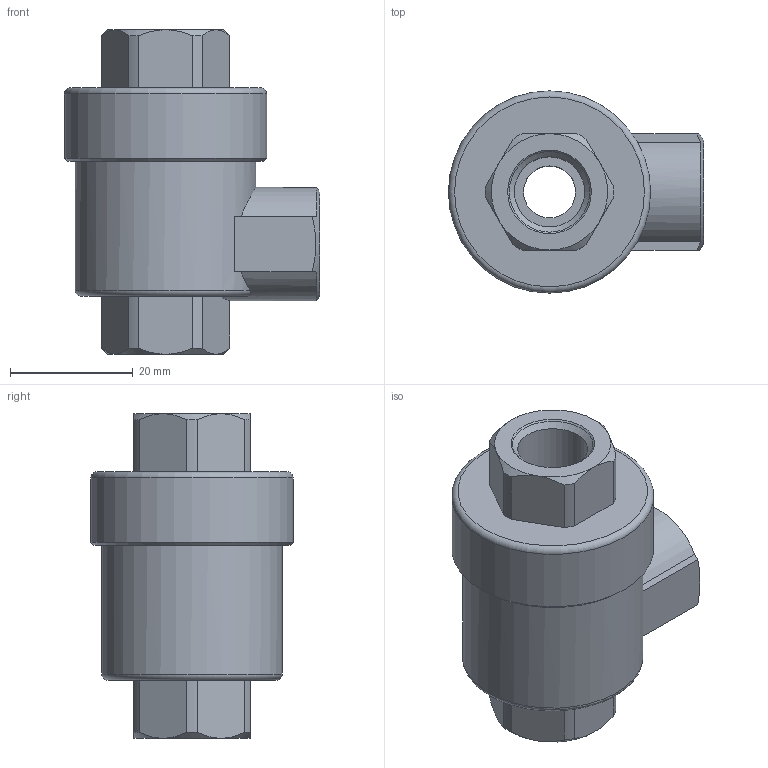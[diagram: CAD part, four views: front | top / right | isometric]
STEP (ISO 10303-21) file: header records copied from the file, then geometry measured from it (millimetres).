
FILE_DESCRIPTION(('Bauteilbeschreibung','HiCAD-Model','HiCAD-STEP-TRANSLATION','Bauteilbeschreibung'),'2;1');
FILE_NAME('B:/ABGLEICH/ZEICHNUNGEN/STEP FÜR INTERNET/STEP/SCHNELLENTLÜFTUNGSVENTIL VSR/60502_VSR 1-4.STP','2012-10-15T12:07:26+00:00',('Konstrukteur'),('Konstrukteur Firma GmbH'),' HiCAD neXt 2008, Step 3.1.1401.2J ','HiCAD neXt 2008','confidential');
FILE_SCHEMA(('AUTOMOTIVE_DESIGN { 1 2 10303 214 0 1 1 1 }'));
Length unit declared in the file: millimetre
Products named in the file (10): A0502_VSR 1_4; DECKEL; DECKEL0; G 1_4; DIN 13_M30; K_RPER; K0RPER; DIN0130M30; G0104; G01040
Assembly tree (9 placements, depth 3):
  A0502_VSR 1_4
    DECKEL
    DECKEL0
      G 1_4
      DIN 13_M30
    K_RPER
    K0RPER
      DIN0130M30
      G0104
      G01040
Bounding box: 41.65 x 33 x 53 mm (x, y, z)
Volume: 18460 mm3; surface area: 18652.8 mm2
Topology: 7 solids, 7 shells, 103 faces, 241 edges, 159 vertices
Faces by surface type: plane 41, cylinder 39, cone 21, torus 2
Full cylindrical faces by diameter (mm): 8.5 x3, 11.445 x6, 13.157 x6, 25 x1, 25.706 x4, 29.5 x1, 30 x3, 33 x1
Entity records: 4800 total; most frequent: CARTESIAN_POINT 1554, DIRECTION 488, ORIENTED_EDGE 368, AXIS2_PLACEMENT_3D 220, COLOUR_RGB 184, EDGE_CURVE 184, PRESENTATION_STYLE_ASSIGNMENT 184, CURVE_STYLE 177
